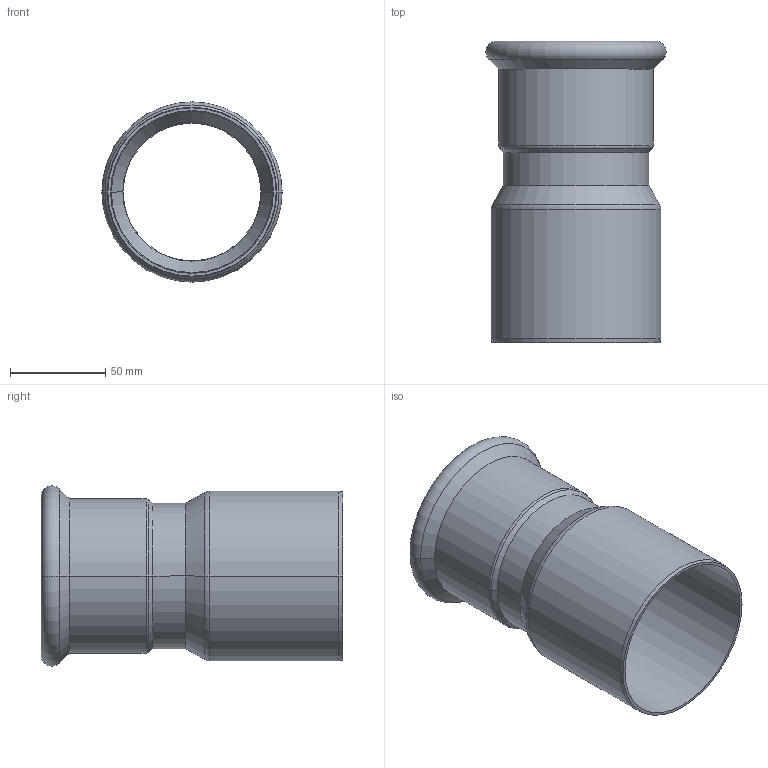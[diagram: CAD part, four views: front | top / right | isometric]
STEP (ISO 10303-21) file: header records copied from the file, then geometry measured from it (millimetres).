
FILE_DESCRIPTION(('CoCreate Modeling STEP Export'),'2;1');
FILE_NAME('C1407 76x88.9.stp','2014-11-07T16:39:18',(''),(''),'CoCreate Modeling STEP processor for AP214 (Solid Model)','CoCreate Modeling 17.00A 17-Jun-2010 (C) Parametric Technology GmbH','');
FILE_SCHEMA(('AUTOMOTIVE_DESIGN { 1 0 10303 214 1 1 1 1 }'));
Length unit declared in the file: millimetre
Products named in the file (2): C1407_76x89
Assembly tree (1 placements, depth 2):
  C1407_76x89
    C1407_76x89
Bounding box: 94.48 x 158 x 94.48 mm (x, y, z)
Volume: 96089 mm3; surface area: 86678.6 mm2
Topology: 1 solids, 1 shells, 39 faces, 80 edges, 46 vertices
Faces by surface type: cylinder 16, cone 10, torus 8, plane 5
Entity records: 876 total; most frequent: ORIENTED_EDGE 160, DIRECTION 134, CARTESIAN_POINT 126, EDGE_CURVE 80, AXIS2_PLACEMENT_3D 54, VERTEX_POINT 46, EDGE_LOOP 44, FACE_OUTER_BOUND 39
